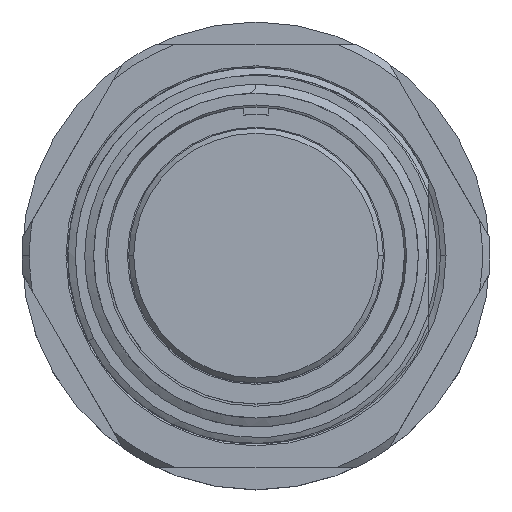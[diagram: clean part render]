
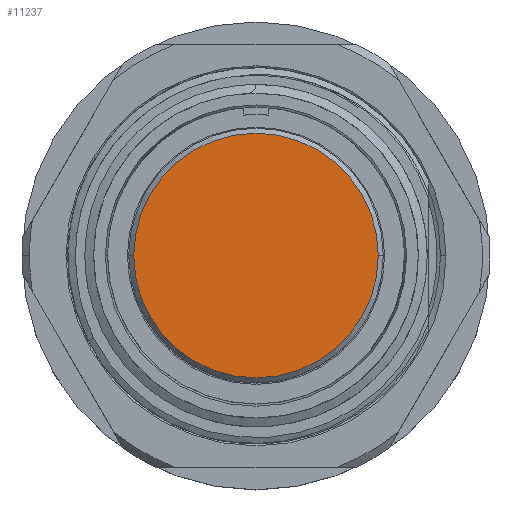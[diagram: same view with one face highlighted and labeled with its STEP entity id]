
A CAD part, top view. The second image highlights one B-rep face of the part: STEP entity #11237.
In plain terms, the highlighted planar face has unit normal (0, 0, 1).
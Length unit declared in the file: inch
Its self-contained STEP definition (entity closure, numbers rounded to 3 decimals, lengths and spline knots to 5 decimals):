
#861 = FACE_OUTER_BOUND ( 'NONE', #12196, .T. ) ;
#2210 = EDGE_CURVE ( 'NONE', #4570, #9884, #2418, .T. ) ;
#2418 = CIRCLE ( 'NONE', #10965, 0.4875 ) ;
#2675 = CARTESIAN_POINT ( 'NONE',  ( 0.4875, 0., -0.018 ) ) ;
#2940 = PLANE ( 'NONE',  #3035 ) ;
#3035 = AXIS2_PLACEMENT_3D ( 'NONE', #9786, #13406, #12274 ) ;
#3483 = EDGE_CURVE ( 'NONE', #9884, #4570, #3764, .T. ) ;
#3609 = DIRECTION ( 'NONE',  ( 1., 0., 0. ) ) ;
#3764 = CIRCLE ( 'NONE', #11355, 0.4875 ) ;
#4323 = ORIENTED_EDGE ( 'NONE', *, *, #3483, .T. ) ;
#4570 = VERTEX_POINT ( 'NONE', #2675 ) ;
#5757 = DIRECTION ( 'NONE',  ( 0., 0., 1. ) ) ;
#8490 = ORIENTED_EDGE ( 'NONE', *, *, #2210, .T. ) ;
#9786 = CARTESIAN_POINT ( 'NONE',  ( 0., 0., -0.018 ) ) ;
#9884 = VERTEX_POINT ( 'NONE', #11390 ) ;
#10965 = AXIS2_PLACEMENT_3D ( 'NONE', #12904, #5757, #3609 ) ;
#11237 = ADVANCED_FACE ( 'NONE', ( #861 ), #2940, .T. ) ;
#11355 = AXIS2_PLACEMENT_3D ( 'NONE', #14519, #14659, #13255 ) ;
#11390 = CARTESIAN_POINT ( 'NONE',  ( -0.4875, 0., -0.018 ) ) ;
#12196 = EDGE_LOOP ( 'NONE', ( #4323, #8490 ) ) ;
#12274 = DIRECTION ( 'NONE',  ( 1., 0., 0. ) ) ;
#12904 = CARTESIAN_POINT ( 'NONE',  ( 0., 0., -0.018 ) ) ;
#13255 = DIRECTION ( 'NONE',  ( 1., 0., 0. ) ) ;
#13406 = DIRECTION ( 'NONE',  ( 0., 0., 1. ) ) ;
#14519 = CARTESIAN_POINT ( 'NONE',  ( 0., 0., -0.018 ) ) ;
#14659 = DIRECTION ( 'NONE',  ( 0., 0., 1. ) ) ;
